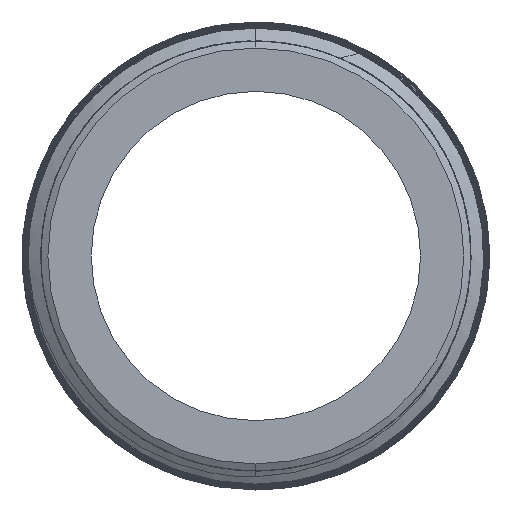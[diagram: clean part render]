
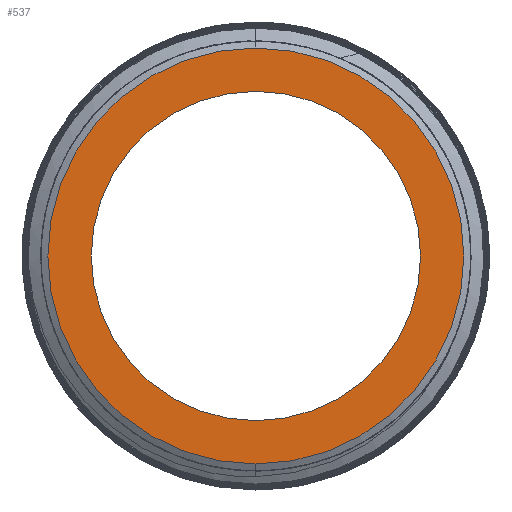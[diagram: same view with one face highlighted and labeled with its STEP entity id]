
A CAD part, left-side view. The second image highlights one B-rep face of the part: STEP entity #537.
In plain terms, the highlighted planar face has unit normal (-1, 0, 0).
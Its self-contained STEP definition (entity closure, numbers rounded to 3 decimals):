
#21 = DIRECTION ( 'NONE',  ( 0., 0., 1. ) ) ;
#51 = VERTEX_POINT ( 'NONE', #8167 ) ;
#314 = DIRECTION ( 'NONE',  ( -1., 0., 0. ) ) ;
#425 = ORIENTED_EDGE ( 'NONE', *, *, #3420, .T. ) ;
#517 = EDGE_CURVE ( 'NONE', #3328, #5205, #3952, .T. ) ;
#537 = ADVANCED_FACE ( 'NONE', ( #8635, #4631 ), #8683, .F. ) ;
#843 = CARTESIAN_POINT ( 'NONE',  ( -500., 0., 4.75 ) ) ;
#900 = CIRCLE ( 'NONE', #4420, 6. ) ;
#1145 = AXIS2_PLACEMENT_3D ( 'NONE', #3183, #3224, #3311 ) ;
#1162 = ORIENTED_EDGE ( 'NONE', *, *, #5748, .T. ) ;
#1719 = CARTESIAN_POINT ( 'NONE',  ( -500., 0., 0. ) ) ;
#2492 = DIRECTION ( 'NONE',  ( -1., 0., 0. ) ) ;
#2938 = CARTESIAN_POINT ( 'NONE',  ( -500., 0., 6. ) ) ;
#3183 = CARTESIAN_POINT ( 'NONE',  ( -500., 0., 0. ) ) ;
#3224 = DIRECTION ( 'NONE',  ( -1., 0., 0. ) ) ;
#3311 = DIRECTION ( 'NONE',  ( 0., 0., 1. ) ) ;
#3328 = VERTEX_POINT ( 'NONE', #4073 ) ;
#3420 = EDGE_CURVE ( 'NONE', #51, #8349, #7658, .T. ) ;
#3952 = CIRCLE ( 'NONE', #1145, 4.75 ) ;
#4073 = CARTESIAN_POINT ( 'NONE',  ( -500., 0., -4.75 ) ) ;
#4149 = AXIS2_PLACEMENT_3D ( 'NONE', #7237, #2492, #4605 ) ;
#4420 = AXIS2_PLACEMENT_3D ( 'NONE', #1719, #314, #7130 ) ;
#4501 = CARTESIAN_POINT ( 'NONE',  ( -500., 4.75, 0. ) ) ;
#4605 = DIRECTION ( 'NONE',  ( 0., 0., 1. ) ) ;
#4631 = FACE_OUTER_BOUND ( 'NONE', #7818, .T. ) ;
#4714 = EDGE_CURVE ( 'NONE', #5205, #3328, #8135, .T. ) ;
#5025 = ORIENTED_EDGE ( 'NONE', *, *, #517, .F. ) ;
#5205 = VERTEX_POINT ( 'NONE', #843 ) ;
#5214 = EDGE_LOOP ( 'NONE', ( #6456, #5025 ) ) ;
#5748 = EDGE_CURVE ( 'NONE', #8349, #51, #900, .T. ) ;
#5878 = DIRECTION ( 'NONE',  ( 0., 0., -1. ) ) ;
#5979 = DIRECTION ( 'NONE',  ( -1., 0., 0. ) ) ;
#6012 = DIRECTION ( 'NONE',  ( 1., 0., 0. ) ) ;
#6456 = ORIENTED_EDGE ( 'NONE', *, *, #4714, .F. ) ;
#6941 = AXIS2_PLACEMENT_3D ( 'NONE', #4501, #6012, #5878 ) ;
#6958 = AXIS2_PLACEMENT_3D ( 'NONE', #8737, #5979, #21 ) ;
#7130 = DIRECTION ( 'NONE',  ( 0., 0., 1. ) ) ;
#7237 = CARTESIAN_POINT ( 'NONE',  ( -500., 0., 0. ) ) ;
#7658 = CIRCLE ( 'NONE', #6958, 6. ) ;
#7818 = EDGE_LOOP ( 'NONE', ( #425, #1162 ) ) ;
#8135 = CIRCLE ( 'NONE', #4149, 4.75 ) ;
#8167 = CARTESIAN_POINT ( 'NONE',  ( -500., 0., -6. ) ) ;
#8349 = VERTEX_POINT ( 'NONE', #2938 ) ;
#8635 = FACE_BOUND ( 'NONE', #5214, .T. ) ;
#8683 = PLANE ( 'NONE',  #6941 ) ;
#8737 = CARTESIAN_POINT ( 'NONE',  ( -500., 0., 0. ) ) ;
